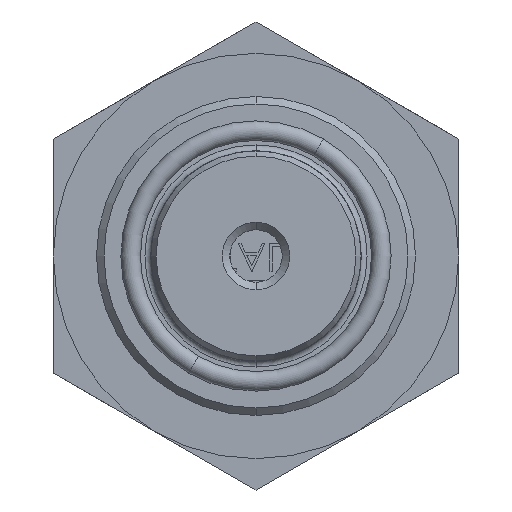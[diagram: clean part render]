
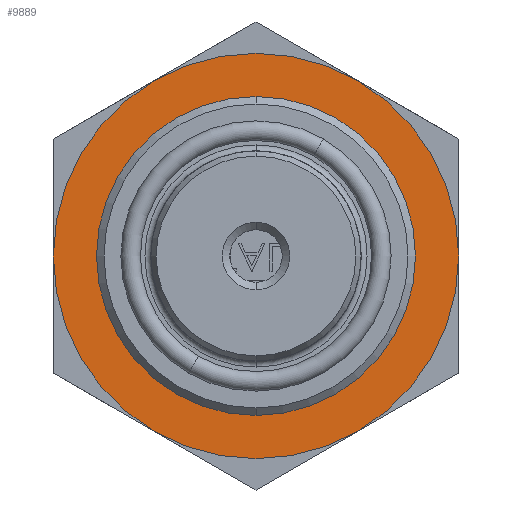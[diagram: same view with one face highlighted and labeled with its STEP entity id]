
A CAD part, front view. The second image highlights one B-rep face of the part: STEP entity #9889.
In plain terms, the highlighted planar face has unit normal (0, -1, 0).
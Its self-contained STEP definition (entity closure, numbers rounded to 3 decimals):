
#179 = DIRECTION ( 'NONE',  ( 0., 0., 1. ) ) ;
#1209 = ORIENTED_EDGE ( 'NONE', *, *, #3541, .F. ) ;
#1487 = AXIS2_PLACEMENT_3D ( 'NONE', #20464, #8070, #22491 ) ;
#2259 = VERTEX_POINT ( 'NONE', #10003 ) ;
#2261 = DIRECTION ( 'NONE',  ( 0., 0., -1. ) ) ;
#3281 = CIRCLE ( 'NONE', #13282, 13.5 ) ;
#3541 = EDGE_CURVE ( 'NONE', #21997, #7859, #11713, .T. ) ;
#4437 = CIRCLE ( 'NONE', #8095, 10. ) ;
#4905 = EDGE_LOOP ( 'NONE', ( #16766, #5809 ) ) ;
#5809 = ORIENTED_EDGE ( 'NONE', *, *, #21147, .T. ) ;
#6329 = DIRECTION ( 'NONE',  ( 0., -1., 0. ) ) ;
#7859 = VERTEX_POINT ( 'NONE', #20368 ) ;
#8070 = DIRECTION ( 'NONE',  ( 0., -1., 0. ) ) ;
#8095 = AXIS2_PLACEMENT_3D ( 'NONE', #21424, #9038, #23445 ) ;
#8136 = EDGE_CURVE ( 'NONE', #2259, #21654, #3281, .T. ) ;
#8271 = CARTESIAN_POINT ( 'NONE',  ( 0., -25., 0. ) ) ;
#9038 = DIRECTION ( 'NONE',  ( 0., -1., 0. ) ) ;
#9283 = CARTESIAN_POINT ( 'NONE',  ( 0., -25., 0. ) ) ;
#9889 = ADVANCED_FACE ( 'NONE', ( #10674, #15583 ), #16523, .F. ) ;
#10003 = CARTESIAN_POINT ( 'NONE',  ( 0., -25., -13.5 ) ) ;
#10230 = CIRCLE ( 'NONE', #1487, 13.5 ) ;
#10566 = CARTESIAN_POINT ( 'NONE',  ( 0., -25., 13.5 ) ) ;
#10674 = FACE_BOUND ( 'NONE', #16706, .T. ) ;
#11362 = DIRECTION ( 'NONE',  ( 0., 0., -1. ) ) ;
#11713 = CIRCLE ( 'NONE', #21738, 10. ) ;
#12377 = DIRECTION ( 'NONE',  ( 0., 1., 0. ) ) ;
#13282 = AXIS2_PLACEMENT_3D ( 'NONE', #9283, #23689, #11362 ) ;
#15583 = FACE_OUTER_BOUND ( 'NONE', #4905, .T. ) ;
#16523 = PLANE ( 'NONE',  #22131 ) ;
#16706 = EDGE_LOOP ( 'NONE', ( #25661, #1209 ) ) ;
#16766 = ORIENTED_EDGE ( 'NONE', *, *, #8136, .T. ) ;
#20368 = CARTESIAN_POINT ( 'NONE',  ( 0., -25., 10. ) ) ;
#20464 = CARTESIAN_POINT ( 'NONE',  ( 0., -25., 0. ) ) ;
#21131 = CARTESIAN_POINT ( 'NONE',  ( 0., -25., -10. ) ) ;
#21147 = EDGE_CURVE ( 'NONE', #21654, #2259, #10230, .T. ) ;
#21424 = CARTESIAN_POINT ( 'NONE',  ( 0., -25., 0. ) ) ;
#21654 = VERTEX_POINT ( 'NONE', #10566 ) ;
#21711 = EDGE_CURVE ( 'NONE', #7859, #21997, #4437, .T. ) ;
#21738 = AXIS2_PLACEMENT_3D ( 'NONE', #8271, #6329, #2261 ) ;
#21997 = VERTEX_POINT ( 'NONE', #21131 ) ;
#22131 = AXIS2_PLACEMENT_3D ( 'NONE', #24679, #12377, #179 ) ;
#22491 = DIRECTION ( 'NONE',  ( 0., 0., -1. ) ) ;
#23445 = DIRECTION ( 'NONE',  ( 0., 0., -1. ) ) ;
#23689 = DIRECTION ( 'NONE',  ( 0., -1., 0. ) ) ;
#24679 = CARTESIAN_POINT ( 'NONE',  ( 0., -25., -31.843 ) ) ;
#25661 = ORIENTED_EDGE ( 'NONE', *, *, #21711, .F. ) ;
